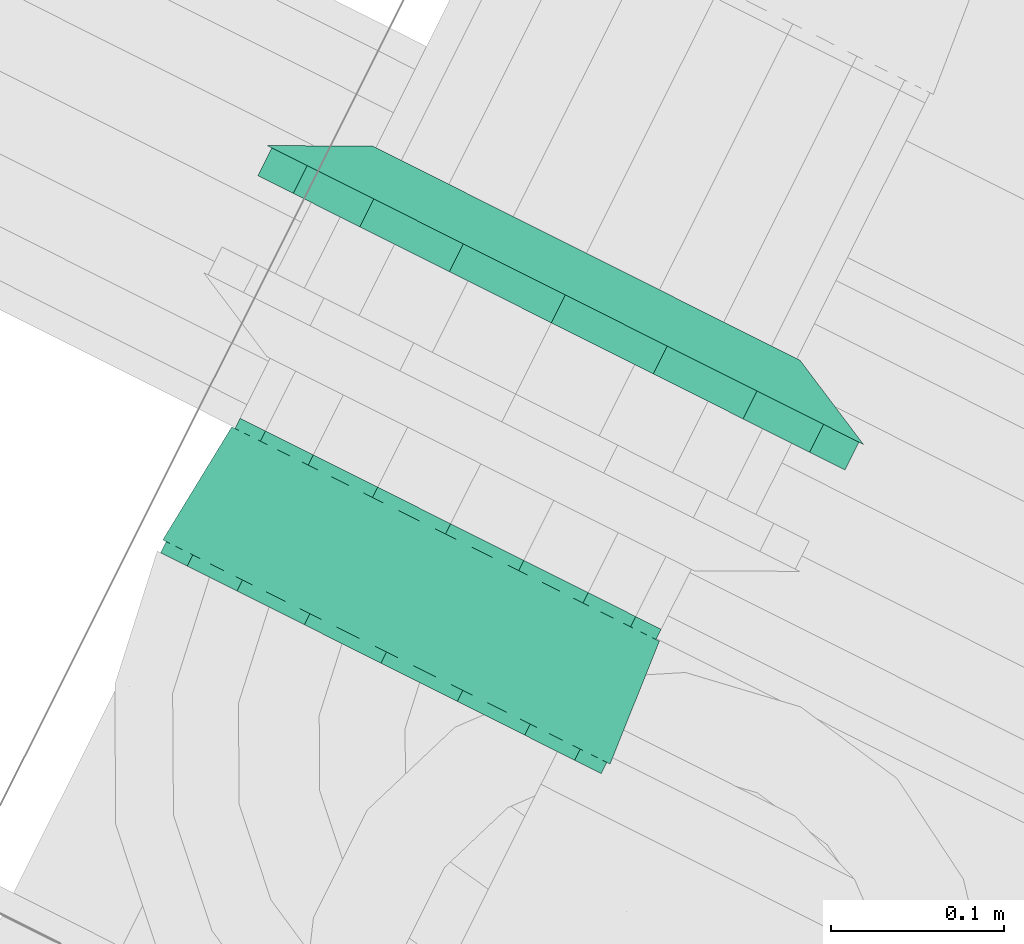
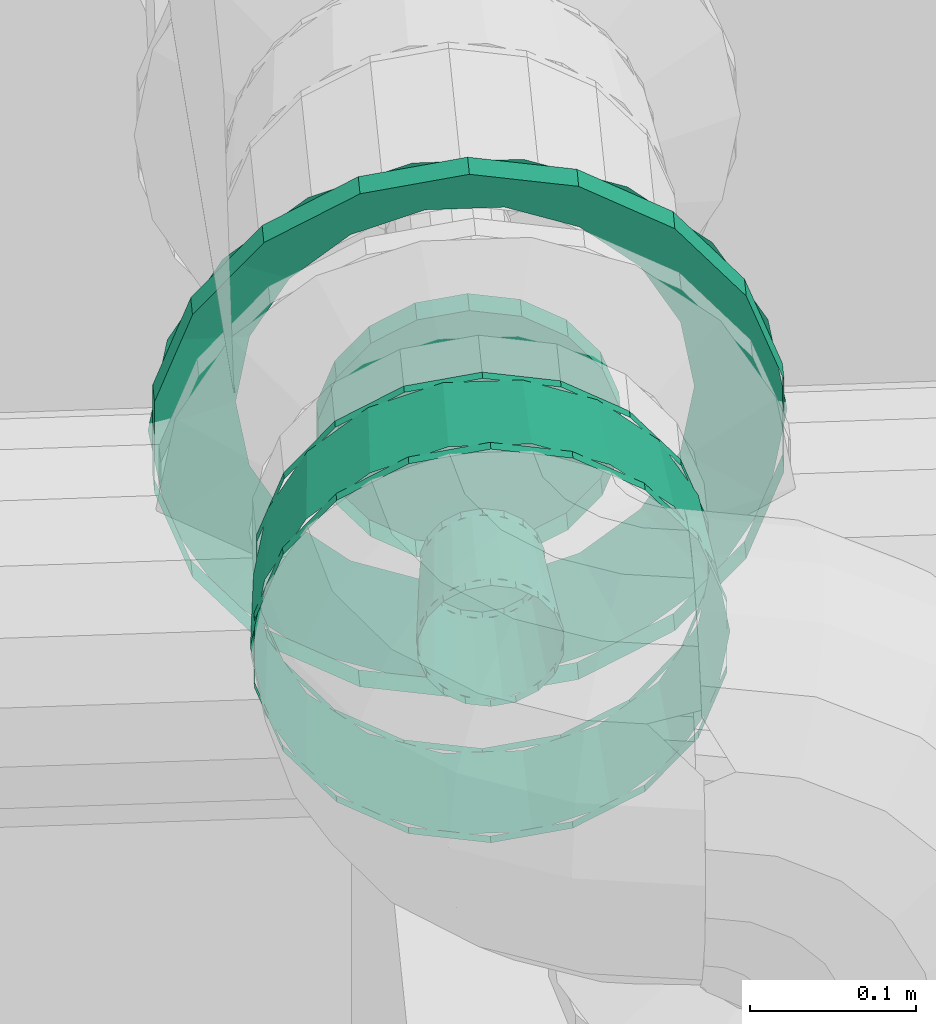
# One storey, part 90 of 206: 2 flow fittings.
"""IFC2X3 building model written with IfcOpenShell, lengths in metres."""

from ifc_helpers import new_model, si_unit, derived_unit, direction, frame, origin, place, context, subcontext, project, spatial, face_set, surface_model, source, transform, mapped, material, type_object, type_shapes, element, save


model = new_model("IFC2X3")

# Units and contexts
model_context = context("Model", 3, precision=5.2338327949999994e-05, world=origin(), true_north=direction((0.0, 1.0)))
body_context = subcontext(model_context, "Body", "Model", "MODEL_VIEW")
ifc_project = project(units=[si_unit("LENGTHUNIT", "METRE"), si_unit("AREAUNIT", "SQUARE_METRE"), si_unit("VOLUMEUNIT", "CUBIC_METRE"), si_unit("MASSUNIT", "GRAM", prefix="KILO"), si_unit("PLANEANGLEUNIT", "RADIAN"), derived_unit("THERMALTRANSMITTANCEUNIT", [(si_unit("MASSUNIT", "GRAM", prefix="KILO"), 1), (si_unit("THERMODYNAMICTEMPERATUREUNIT", "KELVIN"), -1), (si_unit("TIMEUNIT", "SECOND"), -3)])], contexts=[model_context])

# Site, building, storey
site_placement = place(None, frame((0.0, 0.0, 0.0), z_axis=(0.0, 0.0, 1.0), x_axis=(0.8939966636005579, -0.4480736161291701, 0.0)))
site = spatial("IfcSite", under=ifc_project, at=site_placement, Name="Default", CompositionType="ELEMENT")
building_placement = place(site_placement, origin())
building = spatial("IfcBuilding", under=site, at=building_placement, CompositionType="ELEMENT")
storey_placement = place(building_placement, origin())
storey = spatial("IfcBuildingStorey", under=building, at=storey_placement, Name="Erdgeschoss", CompositionType="ELEMENT", Elevation=0.0)

# Flow fittings
ifc_material = material(Name="IfcSurfaceStyle #1741")
distribution_element_type_1 = type_object("IfcDistributionElementType", Name="Flansch 330104:Flansch 330104", material=ifc_material)
shared_shape_1 = source(origin(), body_context, "Body", "SurfaceModel", [
    surface_model("IfcFaceBasedSurfaceModel", [(29.92207798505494, 8.852317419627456, 2.313999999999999), (29.924372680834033, 8.852317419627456, 2.3009861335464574), (29.917841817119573, 8.825317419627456, 2.2986090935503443), (29.91512798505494, 8.825317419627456, 2.313999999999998), (29.930979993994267, 8.852317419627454, 2.289541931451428), (29.925655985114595, 8.825317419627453, 2.285074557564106), (29.941102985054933, 8.852317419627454, 2.281047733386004), (29.93762798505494, 8.825317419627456, 2.275028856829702), (29.95352067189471, 8.852317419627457, 2.2765280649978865), (29.952313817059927, 8.825317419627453, 2.2696836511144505), (29.966735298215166, 8.852317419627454, 2.276528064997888), (29.96794215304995, 8.825317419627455, 2.269683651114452), (29.979152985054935, 8.852317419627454, 2.2810477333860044), (29.982627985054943, 8.825317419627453, 2.2750288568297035), (29.989275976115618, 8.852317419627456, 2.2895419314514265), (29.99459998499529, 8.825317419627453, 2.2850745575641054), (29.995883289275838, 8.852317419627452, 2.3009861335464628), (30.002414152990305, 8.825317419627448, 2.29860909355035), (29.99817798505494, 8.852317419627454, 2.314000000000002), (30.005127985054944, 8.82531741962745, 2.314000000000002), (29.995883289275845, 8.852317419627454, 2.3270138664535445), (30.00241415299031, 8.82531741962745, 2.3293909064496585), (29.989275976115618, 8.85231741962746, 2.338458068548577), (29.994599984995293, 8.825317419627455, 2.342925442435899), (29.979152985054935, 8.852317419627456, 2.3469522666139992), (29.982627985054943, 8.825317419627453, 2.3529711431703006), (29.966735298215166, 8.852317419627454, 2.3514719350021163), (29.96794215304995, 8.825317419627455, 2.3583163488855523), (29.95352067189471, 8.852317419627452, 2.3514719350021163), (29.952313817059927, 8.825317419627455, 2.3583163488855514), (29.94110298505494, 8.852317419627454, 2.346952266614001), (29.93762798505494, 8.825317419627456, 2.352971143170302), (29.93097999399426, 8.852317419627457, 2.3384580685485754), (29.92565598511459, 8.825317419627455, 2.342925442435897), (29.92437268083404, 8.852317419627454, 2.3270138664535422), (29.917841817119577, 8.825317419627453, 2.329390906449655), (29.960127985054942, 8.825317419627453, 2.221500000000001), (29.991764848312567, 8.825317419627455, 2.2270784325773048), (29.991764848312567, 8.807317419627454, 2.227078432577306), (29.960127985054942, 8.807317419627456, 2.2215000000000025), (30.019585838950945, 8.825317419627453, 2.2431408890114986), (30.019585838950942, 8.807317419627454, 2.2431408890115), (30.040235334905, 8.825317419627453, 2.267750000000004), (30.040235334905, 8.807317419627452, 2.2677500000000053), (30.051222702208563, 8.825317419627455, 2.297937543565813), (30.051222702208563, 8.807317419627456, 2.2979375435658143), (30.051222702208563, 8.825317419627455, 2.330062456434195), (30.051222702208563, 8.807317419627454, 2.330062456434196), (30.040235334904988, 8.825317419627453, 2.3602500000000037), (30.040235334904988, 8.807317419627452, 2.360250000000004), (30.019585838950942, 8.825317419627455, 2.3848591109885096), (30.019585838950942, 8.807317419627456, 2.38485911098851), (29.991764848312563, 8.825317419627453, 2.4009215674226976), (29.991764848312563, 8.807317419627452, 2.4009215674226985), (29.960127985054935, 8.825317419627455, 2.4065000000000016), (29.960127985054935, 8.807317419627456, 2.406500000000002), (29.928491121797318, 8.825317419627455, 2.4009215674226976), (29.928491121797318, 8.807317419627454, 2.400921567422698), (29.900670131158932, 8.825317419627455, 2.3848591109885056), (29.900670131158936, 8.807317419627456, 2.384859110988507), (29.880020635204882, 8.825317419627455, 2.360249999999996), (29.880020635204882, 8.807317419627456, 2.3602499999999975), (29.869033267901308, 8.825317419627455, 2.3300624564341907), (29.8690332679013, 8.807317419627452, 2.330062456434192), (29.869033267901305, 8.825317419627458, 2.2979375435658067), (29.869033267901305, 8.807317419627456, 2.2979375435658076), (29.88002063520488, 8.825317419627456, 2.2677499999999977), (29.880020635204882, 8.807317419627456, 2.2677499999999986), (29.900670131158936, 8.825317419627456, 2.2431408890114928), (29.90067013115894, 8.807317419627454, 2.2431408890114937), (29.928491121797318, 8.825317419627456, 2.2270784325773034), (29.928491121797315, 8.807317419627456, 2.2270784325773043), (29.960127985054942, 8.825317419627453, 2.314000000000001), (29.822077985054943, 8.852317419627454, 2.3139999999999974), (29.830403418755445, 8.852317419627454, 2.266784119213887), (29.77923715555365, 8.825317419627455, 2.2481611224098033), (29.76762798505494, 8.825317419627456, 2.313999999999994), (29.854375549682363, 8.852317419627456, 2.22526317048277), (29.812664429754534, 8.825317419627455, 2.190263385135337), (29.891102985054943, 8.852317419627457, 2.1944451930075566), (29.863877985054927, 8.825317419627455, 2.147290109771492), (29.936155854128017, 8.852317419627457, 2.178047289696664), (29.92670071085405, 8.825317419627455, 2.124424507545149), (29.984100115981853, 8.852317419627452, 2.178047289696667), (29.993555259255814, 8.825317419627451, 2.124424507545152), (30.029152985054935, 8.852317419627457, 2.194445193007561), (30.056377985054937, 8.825317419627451, 2.1472901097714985), (30.06588042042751, 8.85231741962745, 2.2252631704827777), (30.107591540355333, 8.82531741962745, 2.1902633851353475), (30.08985255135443, 8.852317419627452, 2.266784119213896), (30.141018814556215, 8.82531741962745, 2.2481611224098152), (30.098177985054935, 8.852317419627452, 2.314000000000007), (30.152627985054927, 8.825317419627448, 2.3140000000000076), (30.089852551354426, 8.852317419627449, 2.3612158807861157), (30.141018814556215, 8.825317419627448, 2.3798388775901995), (30.06588042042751, 8.852317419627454, 2.402736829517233), (30.107591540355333, 8.825317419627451, 2.437736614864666), (30.02915298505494, 8.852317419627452, 2.4335548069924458), (30.056377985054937, 8.82531741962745, 2.480709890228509), (29.984100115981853, 8.852317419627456, 2.449952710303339), (29.993555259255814, 8.82531741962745, 2.503575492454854), (29.936155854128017, 8.852317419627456, 2.449952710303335), (29.926700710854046, 8.825317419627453, 2.5035754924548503), (29.891102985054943, 8.852317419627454, 2.433554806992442), (29.863877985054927, 8.825317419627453, 2.480709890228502), (29.854375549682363, 8.852317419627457, 2.402736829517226), (29.812664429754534, 8.825317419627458, 2.4377366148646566), (29.830403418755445, 8.852317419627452, 2.3612158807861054), (29.779237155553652, 8.825317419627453, 2.3798388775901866), (29.960127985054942, 8.825317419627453, 2.1215000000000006), (30.02596686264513, 8.825317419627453, 2.1331091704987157), (30.02596686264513, 8.807317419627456, 2.133109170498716), (29.960127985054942, 8.807317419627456, 2.121500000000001), (30.083864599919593, 8.825317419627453, 2.166536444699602), (30.083864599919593, 8.807317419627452, 2.1665364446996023), (30.12683787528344, 8.825317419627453, 2.217750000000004), (30.12683787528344, 8.807317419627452, 2.217750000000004), (30.149703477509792, 8.82531741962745, 2.2805727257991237), (30.149703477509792, 8.807317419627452, 2.2805727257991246), (30.149703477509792, 8.82531741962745, 2.3474272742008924), (30.149703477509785, 8.807317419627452, 2.3474272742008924), (30.12683787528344, 8.82531741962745, 2.410250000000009), (30.12683787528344, 8.807317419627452, 2.410250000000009), (30.083864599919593, 8.825317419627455, 2.4614635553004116), (30.083864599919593, 8.807317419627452, 2.4614635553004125), (30.025966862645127, 8.825317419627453, 2.4948908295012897), (30.02596686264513, 8.807317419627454, 2.4948908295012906), (29.960127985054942, 8.825317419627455, 2.5065000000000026), (29.960127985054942, 8.807317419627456, 2.506500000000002), (29.894289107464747, 8.825317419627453, 2.494890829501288), (29.894289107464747, 8.807317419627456, 2.4948908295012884), (29.83639137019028, 8.825317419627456, 2.461463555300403), (29.83639137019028, 8.807317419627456, 2.4614635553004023), (29.793418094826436, 8.825317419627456, 2.410249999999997), (29.793418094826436, 8.80731741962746, 2.4102499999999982), (29.770552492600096, 8.825317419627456, 2.347427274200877), (29.770552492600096, 8.807317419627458, 2.3474272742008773), (29.770552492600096, 8.825317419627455, 2.280572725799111), (29.770552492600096, 8.807317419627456, 2.2805727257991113), (29.79341809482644, 8.825317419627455, 2.2177499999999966), (29.79341809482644, 8.807317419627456, 2.2177499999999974), (29.836391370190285, 8.825317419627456, 2.1665364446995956), (29.836391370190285, 8.807317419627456, 2.1665364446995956), (29.894289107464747, 8.825317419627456, 2.1331091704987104), (29.894289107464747, 8.807317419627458, 2.133109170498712)], [face_set([[[0, 1, 2, 3]], [[1, 4, 5, 2]], [[4, 6, 7, 5]], [[6, 8, 9, 7]], [[8, 10, 11, 9]], [[10, 12, 13, 11]], [[12, 14, 15, 13]], [[14, 16, 17, 15]], [[16, 18, 19, 17]], [[18, 20, 21, 19]], [[20, 22, 23, 21]], [[22, 24, 25, 23]], [[24, 26, 27, 25]], [[26, 28, 29, 27]], [[28, 30, 31, 29]], [[30, 32, 33, 31]], [[32, 34, 35, 33]], [[34, 0, 3, 35]], [[36, 37, 38, 39]], [[37, 40, 41, 38]], [[40, 42, 43, 41]], [[42, 44, 45, 43]], [[44, 46, 47, 45]], [[46, 48, 49, 47]], [[48, 50, 51, 49]], [[50, 52, 53, 51]], [[52, 54, 55, 53]], [[54, 56, 57, 55]], [[56, 58, 59, 57]], [[58, 60, 61, 59]], [[60, 62, 63, 61]], [[62, 64, 65, 63]], [[64, 66, 67, 65]], [[66, 68, 69, 67]], [[68, 70, 71, 69]], [[70, 36, 39, 71]], [[72, 37, 36]], [[72, 40, 37]], [[72, 42, 40]], [[72, 44, 42]], [[72, 46, 44]], [[72, 48, 46]], [[72, 50, 48]], [[72, 52, 50]], [[72, 54, 52]], [[72, 56, 54]], [[72, 58, 56]], [[72, 60, 58]], [[72, 62, 60]], [[72, 64, 62]], [[72, 66, 64]], [[72, 68, 66]], [[72, 70, 68]], [[72, 36, 70]], [[73, 74, 75, 76]], [[74, 77, 78, 75]], [[77, 79, 80, 78]], [[79, 81, 82, 80]], [[81, 83, 84, 82]], [[83, 85, 86, 84]], [[85, 87, 88, 86]], [[87, 89, 90, 88]], [[89, 91, 92, 90]], [[91, 93, 94, 92]], [[93, 95, 96, 94]], [[95, 97, 98, 96]], [[97, 99, 100, 98]], [[99, 101, 102, 100]], [[101, 103, 104, 102]], [[103, 105, 106, 104]], [[105, 107, 108, 106]], [[107, 73, 76, 108]], [[109, 110, 111, 112]], [[110, 113, 114, 111]], [[113, 115, 116, 114]], [[115, 117, 118, 116]], [[117, 119, 120, 118]], [[119, 121, 122, 120]], [[121, 123, 124, 122]], [[123, 125, 126, 124]], [[125, 127, 128, 126]], [[127, 129, 130, 128]], [[129, 131, 132, 130]], [[131, 133, 134, 132]], [[133, 135, 136, 134]], [[135, 137, 138, 136]], [[137, 139, 140, 138]], [[139, 141, 142, 140]], [[141, 143, 144, 142]], [[143, 109, 112, 144]]])]),
])
type_shapes(distribution_element_type_1, [shared_shape_1])
flow_fitting_1_placement = place(storey_placement, origin())
element("IfcFlowFitting", 1, at=flow_fitting_1_placement, inside=storey, type_object=distribution_element_type_1, material=ifc_material, Name="Flansch", ObjectType="Flansch", context=body_context, shape_type="MappedRepresentation", body=[
    mapped(shared_shape_1, transform((0.0, 0.0, 0.0), scale=1.0)),
])
distribution_element_type_2 = type_object("IfcDistributionElementType", Name="Übergangsstück 330867:Übergangsstück 330867", material=ifc_material)
shared_shape_2 = source(origin(), body_context, "Body", "SurfaceModel", [
    surface_model("IfcFaceBasedSurfaceModel", [(29.960127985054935, 8.587570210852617, 2.26955), (29.94492518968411, 8.587570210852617, 2.272230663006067), (29.94492518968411, 8.594719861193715, 2.272230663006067), (29.960127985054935, 8.594719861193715, 2.26955), (29.93155607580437, 8.587570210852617, 2.2799493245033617), (29.93155607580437, 8.594719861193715, 2.2799493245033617), (29.92163315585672, 8.587570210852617, 2.291775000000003), (29.92163315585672, 8.594719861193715, 2.291775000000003), (29.916353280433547, 8.587570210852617, 2.3062813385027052), (29.916353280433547, 8.594719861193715, 2.3062813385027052), (29.916353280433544, 8.587570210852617, 2.321718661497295), (29.916353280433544, 8.594719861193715, 2.321718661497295), (29.92163315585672, 8.587570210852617, 2.336224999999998), (29.92163315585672, 8.594719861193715, 2.336224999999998), (29.93155607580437, 8.587570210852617, 2.34805067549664), (29.93155607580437, 8.594719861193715, 2.34805067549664), (29.944925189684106, 8.587570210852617, 2.3557693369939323), (29.944925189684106, 8.594719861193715, 2.3557693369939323), (29.960127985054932, 8.587570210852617, 2.35845), (29.960127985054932, 8.594719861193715, 2.35845), (29.97533078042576, 8.58757021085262, 2.3557693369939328), (29.97533078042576, 8.594719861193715, 2.3557693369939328), (29.9886998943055, 8.587570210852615, 2.3480506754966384), (29.9886998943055, 8.594719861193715, 2.3480506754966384), (29.998622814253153, 8.587570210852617, 2.3362249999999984), (29.998622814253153, 8.594719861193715, 2.3362249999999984), (30.003902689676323, 8.587570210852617, 2.3217186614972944), (30.003902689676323, 8.594719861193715, 2.3217186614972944), (30.003902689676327, 8.587570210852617, 2.3062813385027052), (30.003902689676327, 8.594719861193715, 2.3062813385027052), (29.998622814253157, 8.587570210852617, 2.291774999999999), (29.998622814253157, 8.594719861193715, 2.291774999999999), (29.98869989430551, 8.587570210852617, 2.2799493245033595), (29.98869989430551, 8.594719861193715, 2.2799493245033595), (29.97533078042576, 8.587570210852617, 2.2722306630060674), (29.97533078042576, 8.594719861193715, 2.2722306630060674), (29.960127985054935, 8.587570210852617, 2.1695499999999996), (29.910723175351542, 8.587570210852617, 2.1782614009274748), (29.910723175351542, 8.594719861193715, 2.1782614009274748), (29.960127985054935, 8.594719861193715, 2.1695499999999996), (29.867277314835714, 8.587570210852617, 2.203344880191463), (29.867277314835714, 8.594719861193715, 2.203344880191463), (29.835030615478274, 8.587570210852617, 2.2417750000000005), (29.835030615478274, 8.594719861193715, 2.2417750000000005), (29.81787250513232, 8.587570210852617, 2.2889165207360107), (29.81787250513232, 8.594719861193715, 2.2889165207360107), (29.81787250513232, 8.587570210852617, 2.3390834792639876), (29.81787250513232, 8.594719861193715, 2.3390834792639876), (29.83503061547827, 8.587570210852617, 2.386224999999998), (29.83503061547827, 8.594719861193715, 2.386224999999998), (29.867277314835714, 8.587570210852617, 2.424655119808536), (29.867277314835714, 8.594719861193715, 2.424655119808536), (29.910723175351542, 8.587570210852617, 2.4497385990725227), (29.910723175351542, 8.594719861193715, 2.4497385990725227), (29.960127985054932, 8.587570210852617, 2.4584500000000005), (29.960127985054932, 8.594719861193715, 2.4584500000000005), (30.009532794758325, 8.587570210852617, 2.449738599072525), (30.009532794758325, 8.594719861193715, 2.449738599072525), (30.052978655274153, 8.587570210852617, 2.424655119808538), (30.052978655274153, 8.594719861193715, 2.424655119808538), (30.085225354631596, 8.587570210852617, 2.3862250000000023), (30.085225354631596, 8.594719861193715, 2.3862250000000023), (30.102383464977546, 8.587570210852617, 2.339083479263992), (30.102383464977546, 8.594719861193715, 2.339083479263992), (30.102383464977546, 8.587570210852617, 2.2889165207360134), (30.102383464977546, 8.594719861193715, 2.2889165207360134), (30.085225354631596, 8.587570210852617, 2.241774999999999), (30.085225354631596, 8.594719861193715, 2.241774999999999), (30.052978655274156, 8.587570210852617, 2.203344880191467), (30.052978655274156, 8.594719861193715, 2.203344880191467), (30.00953279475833, 8.587570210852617, 2.178261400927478), (30.00953279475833, 8.594719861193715, 2.178261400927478), (29.915677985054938, 8.594719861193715, 2.3139999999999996), (29.918358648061, 8.594719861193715, 2.329202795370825), (29.92437268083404, 8.670955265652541, 2.3270138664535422), (29.922077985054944, 8.670955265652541, 2.314000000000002), (29.926077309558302, 8.594719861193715, 2.342571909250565), (29.930979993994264, 8.670955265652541, 2.33845806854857), (29.937902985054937, 8.594719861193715, 2.352494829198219), (29.94110298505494, 8.670955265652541, 2.3469522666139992), (29.95240932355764, 8.594719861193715, 2.3577747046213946), (29.95352067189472, 8.670955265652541, 2.3514719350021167), (29.96784664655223, 8.594719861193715, 2.3577747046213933), (29.966735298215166, 8.670955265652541, 2.351471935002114), (29.982352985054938, 8.594719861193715, 2.3524948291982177), (29.979152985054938, 8.670955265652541, 2.346952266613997), (29.994178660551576, 8.594719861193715, 2.3425719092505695), (29.989275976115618, 8.670955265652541, 2.338458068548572), (30.00189732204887, 8.594719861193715, 2.3292027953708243), (29.99588328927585, 8.670955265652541, 2.3270138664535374), (30.004577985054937, 8.594719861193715, 2.314000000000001), (29.998177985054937, 8.670955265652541, 2.313999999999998), (30.00189732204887, 8.594719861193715, 2.2987972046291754), (29.995883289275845, 8.670955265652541, 2.300986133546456), (29.994178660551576, 8.594719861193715, 2.285428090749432), (29.98927597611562, 8.670955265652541, 2.2895419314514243), (29.98235298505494, 8.594719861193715, 2.2755051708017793), (29.979152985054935, 8.670955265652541, 2.2810477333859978), (29.96784664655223, 8.594719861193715, 2.2702252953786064), (29.966735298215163, 8.670955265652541, 2.2765280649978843), (29.95240932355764, 8.594719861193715, 2.270225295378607), (29.953520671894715, 8.670955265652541, 2.2765280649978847), (29.93790298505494, 8.594719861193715, 2.275505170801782), (29.941102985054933, 8.670955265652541, 2.2810477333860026), (29.926077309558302, 8.594719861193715, 2.285428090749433), (29.93097999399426, 8.670955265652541, 2.289541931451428), (29.918358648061, 8.594719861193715, 2.2987972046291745), (29.924372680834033, 8.670955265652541, 2.3009861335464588), (29.960127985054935, 8.670955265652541, 2.275949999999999), (29.947114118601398, 8.670955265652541, 2.2782446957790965), (29.947114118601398, 8.677570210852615, 2.2782446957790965), (29.960127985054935, 8.677570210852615, 2.275949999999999), (29.93566991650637, 8.670955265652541, 2.2848520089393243), (29.93566991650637, 8.677570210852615, 2.2848520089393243), (29.92717571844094, 8.670955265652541, 2.294975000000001), (29.92717571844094, 8.677570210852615, 2.294975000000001), (29.922656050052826, 8.670955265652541, 2.3073926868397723), (29.922656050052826, 8.677570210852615, 2.3073926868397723), (29.922656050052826, 8.670955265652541, 2.3206073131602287), (29.922656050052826, 8.677570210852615, 2.3206073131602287), (29.92717571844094, 8.670955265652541, 2.333025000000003), (29.92717571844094, 8.677570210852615, 2.333025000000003), (29.93566991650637, 8.670955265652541, 2.3431479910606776), (29.93566991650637, 8.677570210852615, 2.3431479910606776), (29.947114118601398, 8.670955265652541, 2.3497553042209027), (29.947114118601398, 8.677570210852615, 2.3497553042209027), (29.960127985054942, 8.670955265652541, 2.35205), (29.960127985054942, 8.677570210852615, 2.35205), (29.97314185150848, 8.670955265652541, 2.3497553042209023), (29.97314185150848, 8.677570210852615, 2.3497553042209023), (29.98458605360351, 8.670955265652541, 2.343147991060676), (29.98458605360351, 8.677570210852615, 2.343147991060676), (29.99308025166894, 8.670955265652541, 2.3330249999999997), (29.99308025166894, 8.677570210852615, 2.3330249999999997), (29.997599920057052, 8.670955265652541, 2.3206073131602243), (29.997599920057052, 8.677570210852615, 2.3206073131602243), (29.997599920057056, 8.670955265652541, 2.3073926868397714), (29.997599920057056, 8.677570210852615, 2.3073926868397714), (29.99308025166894, 8.670955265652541, 2.2949749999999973), (29.99308025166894, 8.677570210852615, 2.2949749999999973), (29.984586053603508, 8.670955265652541, 2.284852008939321), (29.984586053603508, 8.677570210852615, 2.284852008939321), (29.97314185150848, 8.670955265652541, 2.278244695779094), (29.97314185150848, 8.677570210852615, 2.278244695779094), (29.815677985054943, 8.594719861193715, 2.3139999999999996), (29.824389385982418, 8.594719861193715, 2.3634048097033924), (29.83040341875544, 8.670955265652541, 2.361215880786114), (29.822077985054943, 8.670955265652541, 2.314000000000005), (29.8494728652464, 8.594719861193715, 2.406850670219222), (29.85437554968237, 8.670955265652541, 2.402736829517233), (29.887902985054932, 8.594719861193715, 2.4390973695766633), (29.89110298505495, 8.670955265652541, 2.4335548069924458), (29.93504450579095, 8.594719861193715, 2.456255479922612), (29.936155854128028, 8.670955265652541, 2.449952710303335), (29.985211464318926, 8.594719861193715, 2.456255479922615), (29.984100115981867, 8.670955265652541, 2.449952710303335), (30.032352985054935, 8.594719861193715, 2.439097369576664), (30.029152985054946, 8.670955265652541, 2.433554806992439), (30.07078310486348, 8.594719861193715, 2.406850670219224), (30.065880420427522, 8.670955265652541, 2.4027368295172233), (30.095866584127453, 8.594719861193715, 2.363404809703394), (30.089852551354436, 8.670955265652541, 2.3612158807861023), (30.10457798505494, 8.594719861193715, 2.314000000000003), (30.098177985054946, 8.670955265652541, 2.313999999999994), (30.095866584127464, 8.594719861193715, 2.2645951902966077), (30.089852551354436, 8.670955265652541, 2.2667841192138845), (30.070783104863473, 8.594719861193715, 2.2211493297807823), (30.065880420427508, 8.670955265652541, 2.225263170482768), (30.032352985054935, 8.594719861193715, 2.1889026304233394), (30.02915298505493, 8.670955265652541, 2.1944451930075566), (29.98521146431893, 8.594719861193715, 2.1717445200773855), (29.984100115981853, 8.670955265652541, 2.178047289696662), (29.93504450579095, 8.594719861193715, 2.1717445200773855), (29.936155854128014, 8.670955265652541, 2.178047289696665), (29.88790298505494, 8.594719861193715, 2.1889026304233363), (29.891102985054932, 8.670955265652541, 2.1944451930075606), (29.849472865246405, 8.594719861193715, 2.2211493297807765), (29.85437554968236, 8.670955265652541, 2.2252631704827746), (29.824389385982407, 8.594719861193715, 2.264595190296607), (29.830403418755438, 8.670955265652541, 2.2667841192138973), (29.960127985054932, 8.670955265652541, 2.175949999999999), (29.912912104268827, 8.670955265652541, 2.184275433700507), (29.912912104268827, 8.677570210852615, 2.184275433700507), (29.960127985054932, 8.677570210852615, 2.175949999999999), (29.871391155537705, 8.670955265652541, 2.20824756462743), (29.871391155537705, 8.677570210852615, 2.20824756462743), (29.840573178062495, 8.670955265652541, 2.2449750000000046), (29.840573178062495, 8.677570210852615, 2.2449750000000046), (29.824175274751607, 8.670955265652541, 2.2900278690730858), (29.824175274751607, 8.677570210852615, 2.2900278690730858), (29.824175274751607, 8.670955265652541, 2.337972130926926), (29.824175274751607, 8.677570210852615, 2.337972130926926), (29.8405731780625, 8.670955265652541, 2.3830250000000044), (29.8405731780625, 8.677570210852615, 2.3830250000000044), (29.871391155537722, 8.670955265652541, 2.419752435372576), (29.871391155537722, 8.677570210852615, 2.419752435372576), (29.912912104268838, 8.670955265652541, 2.443724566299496), (29.912912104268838, 8.677570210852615, 2.443724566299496), (29.960127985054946, 8.670955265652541, 2.45205), (29.960127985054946, 8.677570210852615, 2.45205), (30.00734386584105, 8.670955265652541, 2.443724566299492), (30.00734386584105, 8.677570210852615, 2.443724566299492), (30.048864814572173, 8.670955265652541, 2.4197524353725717), (30.048864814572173, 8.677570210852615, 2.4197524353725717), (30.079682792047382, 8.670955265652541, 2.383024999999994), (30.079682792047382, 8.677570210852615, 2.383024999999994), (30.096080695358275, 8.670955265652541, 2.3379721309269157), (30.096080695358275, 8.677570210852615, 2.3379721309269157), (30.096080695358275, 8.670955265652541, 2.2900278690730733), (30.096080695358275, 8.677570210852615, 2.2900278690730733), (30.07968279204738, 8.670955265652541, 2.2449749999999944), (30.07968279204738, 8.677570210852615, 2.2449749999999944), (30.04886481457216, 8.670955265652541, 2.2082475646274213), (30.04886481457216, 8.677570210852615, 2.2082475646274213), (30.007343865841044, 8.670955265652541, 2.1842754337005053), (30.007343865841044, 8.677570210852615, 2.1842754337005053)], [face_set([[[0, 1, 2, 3]], [[1, 4, 5, 2]], [[4, 6, 7, 5]], [[6, 8, 9, 7]], [[8, 10, 11, 9]], [[10, 12, 13, 11]], [[12, 14, 15, 13]], [[14, 16, 17, 15]], [[16, 18, 19, 17]], [[18, 20, 21, 19]], [[20, 22, 23, 21]], [[22, 24, 25, 23]], [[24, 26, 27, 25]], [[26, 28, 29, 27]], [[28, 30, 31, 29]], [[30, 32, 33, 31]], [[32, 34, 35, 33]], [[34, 0, 3, 35]], [[36, 37, 38, 39]], [[37, 40, 41, 38]], [[40, 42, 43, 41]], [[42, 44, 45, 43]], [[44, 46, 47, 45]], [[46, 48, 49, 47]], [[48, 50, 51, 49]], [[50, 52, 53, 51]], [[52, 54, 55, 53]], [[54, 56, 57, 55]], [[56, 58, 59, 57]], [[58, 60, 61, 59]], [[60, 62, 63, 61]], [[62, 64, 65, 63]], [[64, 66, 67, 65]], [[66, 68, 69, 67]], [[68, 70, 71, 69]], [[70, 36, 39, 71]], [[72, 73, 74, 75]], [[73, 76, 77, 74]], [[76, 78, 79, 77]], [[78, 80, 81, 79]], [[80, 82, 83, 81]], [[82, 84, 85, 83]], [[84, 86, 87, 85]], [[86, 88, 89, 87]], [[88, 90, 91, 89]], [[90, 92, 93, 91]], [[92, 94, 95, 93]], [[94, 96, 97, 95]], [[96, 98, 99, 97]], [[98, 100, 101, 99]], [[100, 102, 103, 101]], [[102, 104, 105, 103]], [[104, 106, 107, 105]], [[106, 72, 75, 107]], [[108, 109, 110, 111]], [[109, 112, 113, 110]], [[112, 114, 115, 113]], [[114, 116, 117, 115]], [[116, 118, 119, 117]], [[118, 120, 121, 119]], [[120, 122, 123, 121]], [[122, 124, 125, 123]], [[124, 126, 127, 125]], [[126, 128, 129, 127]], [[128, 130, 131, 129]], [[130, 132, 133, 131]], [[132, 134, 135, 133]], [[134, 136, 137, 135]], [[136, 138, 139, 137]], [[138, 140, 141, 139]], [[140, 142, 143, 141]], [[142, 108, 111, 143]], [[144, 145, 146, 147]], [[145, 148, 149, 146]], [[148, 150, 151, 149]], [[150, 152, 153, 151]], [[152, 154, 155, 153]], [[154, 156, 157, 155]], [[156, 158, 159, 157]], [[158, 160, 161, 159]], [[160, 162, 163, 161]], [[162, 164, 165, 163]], [[164, 166, 167, 165]], [[166, 168, 169, 167]], [[168, 170, 171, 169]], [[170, 172, 173, 171]], [[172, 174, 175, 173]], [[174, 176, 177, 175]], [[176, 178, 179, 177]], [[178, 144, 147, 179]], [[180, 181, 182, 183]], [[181, 184, 185, 182]], [[184, 186, 187, 185]], [[186, 188, 189, 187]], [[188, 190, 191, 189]], [[190, 192, 193, 191]], [[192, 194, 195, 193]], [[194, 196, 197, 195]], [[196, 198, 199, 197]], [[198, 200, 201, 199]], [[200, 202, 203, 201]], [[202, 204, 205, 203]], [[204, 206, 207, 205]], [[206, 208, 209, 207]], [[208, 210, 211, 209]], [[210, 212, 213, 211]], [[212, 214, 215, 213]], [[214, 180, 183, 215]]])]),
])
type_shapes(distribution_element_type_2, [shared_shape_2])
flow_fitting_2_placement = place(storey_placement, origin())
element("IfcFlowFitting", 2, at=flow_fitting_2_placement, inside=storey, type_object=distribution_element_type_2, material=ifc_material, Name="Übergangsstück", ObjectType="Übergangsstück", context=body_context, shape_type="MappedRepresentation", body=[
    mapped(shared_shape_2, transform((0.0, 0.0, 0.0), scale=1.0)),
])

save(model, "model.ifc")
